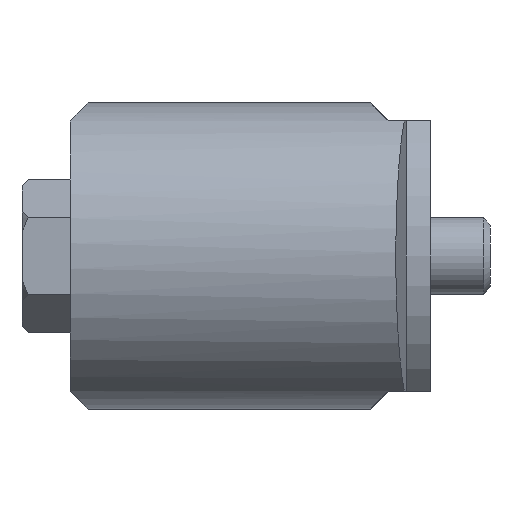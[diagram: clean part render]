
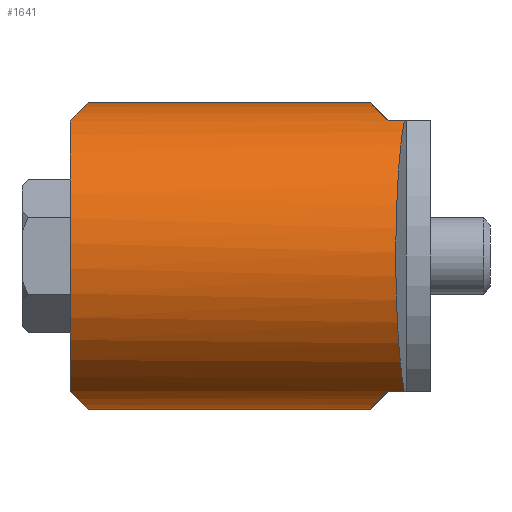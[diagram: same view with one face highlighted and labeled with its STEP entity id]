
A CAD part, left-side view. The second image highlights one B-rep face of the part: STEP entity #1641.
In plain terms, the highlighted cylindrical face has radius 12.75 mm (diameter 25.5 mm), a partial arc.
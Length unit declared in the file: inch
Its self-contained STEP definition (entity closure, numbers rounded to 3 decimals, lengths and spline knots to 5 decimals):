
#60=ELLIPSE('',#1760,0.70989,0.50197);
#61=ELLIPSE('',#1763,0.70989,0.50197);
#62=ELLIPSE('',#1766,0.70989,0.50197);
#63=ELLIPSE('',#1768,0.70989,0.50197);
#64=ELLIPSE('',#1772,0.50473,0.50197);
#146=FACE_OUTER_BOUND('',#241,.T.);
#241=EDGE_LOOP('',(#1092,#1093,#1094,#1095,#1096,#1097,#1098,#1099,#1100,
#1101));
#348=LINE('',#2508,#440);
#361=LINE('',#2538,#453);
#370=LINE('',#2563,#462);
#371=LINE('',#2565,#463);
#440=VECTOR('',#1995,0.3937);
#453=VECTOR('',#2014,0.3937);
#462=VECTOR('',#2041,0.3937);
#463=VECTOR('',#2044,0.3937);
#536=CIRCLE('',#1774,0.50197);
#647=VERTEX_POINT('',#2498);
#648=VERTEX_POINT('',#2499);
#651=VERTEX_POINT('',#2507);
#656=VERTEX_POINT('',#2519);
#657=VERTEX_POINT('',#2520);
#664=VERTEX_POINT('',#2535);
#665=VERTEX_POINT('',#2537);
#667=VERTEX_POINT('',#2543);
#669=VERTEX_POINT('',#2549);
#670=VERTEX_POINT('',#2550);
#813=EDGE_CURVE('',#647,#648,#60,.T.);
#817=EDGE_CURVE('',#648,#651,#348,.T.);
#823=EDGE_CURVE('',#656,#657,#61,.T.);
#831=EDGE_CURVE('',#665,#664,#361,.T.);
#834=EDGE_CURVE('',#664,#667,#62,.T.);
#837=EDGE_CURVE('',#669,#670,#63,.T.);
#843=EDGE_CURVE('',#651,#665,#64,.T.);
#844=EDGE_CURVE('',#667,#669,#370,.T.);
#845=EDGE_CURVE('',#656,#670,#536,.T.);
#846=EDGE_CURVE('',#647,#657,#371,.T.);
#1092=ORIENTED_EDGE('',*,*,#813,.T.);
#1093=ORIENTED_EDGE('',*,*,#817,.T.);
#1094=ORIENTED_EDGE('',*,*,#843,.T.);
#1095=ORIENTED_EDGE('',*,*,#831,.T.);
#1096=ORIENTED_EDGE('',*,*,#834,.T.);
#1097=ORIENTED_EDGE('',*,*,#844,.T.);
#1098=ORIENTED_EDGE('',*,*,#837,.T.);
#1099=ORIENTED_EDGE('',*,*,#845,.F.);
#1100=ORIENTED_EDGE('',*,*,#823,.T.);
#1101=ORIENTED_EDGE('',*,*,#846,.F.);
#1504=CYLINDRICAL_SURFACE('',#1773,0.50197);
#1641=ADVANCED_FACE('',(#146),#1504,.T.);
#1760=AXIS2_PLACEMENT_3D('',#2500,#1988,#1989);
#1763=AXIS2_PLACEMENT_3D('',#2521,#2003,#2004);
#1766=AXIS2_PLACEMENT_3D('',#2544,#2019,#2020);
#1768=AXIS2_PLACEMENT_3D('',#2551,#2025,#2026);
#1772=AXIS2_PLACEMENT_3D('',#2561,#2037,#2038);
#1773=AXIS2_PLACEMENT_3D('',#2562,#2039,#2040);
#1774=AXIS2_PLACEMENT_3D('',#2564,#2042,#2043);
#1988=DIRECTION('center_axis',(0.,0.707,0.707));
#1989=DIRECTION('ref_axis',(0.,-0.707,0.707));
#1995=DIRECTION('',(0.,-1.,0.));
#2003=DIRECTION('center_axis',(0.,-0.707,0.707));
#2004=DIRECTION('ref_axis',(0.,0.707,0.707));
#2014=DIRECTION('',(0.,1.,0.));
#2019=DIRECTION('center_axis',(0.,0.707,-0.707));
#2020=DIRECTION('ref_axis',(0.,0.707,0.707));
#2025=DIRECTION('center_axis',(0.,-0.707,-0.707));
#2026=DIRECTION('ref_axis',(0.,-0.707,0.707));
#2037=DIRECTION('center_axis',(0.105,0.995,0.));
#2038=DIRECTION('ref_axis',(-0.995,0.105,0.));
#2039=DIRECTION('center_axis',(0.,-1.,0.));
#2040=DIRECTION('ref_axis',(0.,0.,1.));
#2041=DIRECTION('',(0.,1.,0.));
#2042=DIRECTION('center_axis',(0.,1.,0.));
#2043=DIRECTION('ref_axis',(0.,0.,1.));
#2044=DIRECTION('',(0.,1.,0.));
#2498=CARTESIAN_POINT('',(-0.65997,-0.4875,-0.50197));
#2499=CARTESIAN_POINT('',(-0.89619,-0.54655,-0.44291));
#2500=CARTESIAN_POINT('Origin',(-0.65997,-0.98947,0.));
#2507=CARTESIAN_POINT('',(-0.89619,-0.60002,-0.44291));
#2508=CARTESIAN_POINT('',(-0.89619,0.49675,-0.44291));
#2519=CARTESIAN_POINT('',(-0.89619,0.49675,-0.44291));
#2520=CARTESIAN_POINT('',(-0.65997,0.4377,-0.50197));
#2521=CARTESIAN_POINT('Origin',(-0.65997,0.93967,0.));
#2535=CARTESIAN_POINT('',(-0.89619,-0.54655,0.44291));
#2537=CARTESIAN_POINT('',(-0.89619,-0.60002,0.44291));
#2538=CARTESIAN_POINT('',(-0.89619,0.49675,0.44291));
#2543=CARTESIAN_POINT('',(-0.65997,-0.4875,0.50197));
#2544=CARTESIAN_POINT('Origin',(-0.65997,-0.98947,0.));
#2549=CARTESIAN_POINT('',(-0.65997,0.4377,0.50197));
#2550=CARTESIAN_POINT('',(-0.89619,0.49675,0.44291));
#2551=CARTESIAN_POINT('Origin',(-0.65997,0.93967,0.));
#2561=CARTESIAN_POINT('Origin',(-0.65997,-0.62485,0.));
#2562=CARTESIAN_POINT('Origin',(-0.65997,0.49675,0.));
#2563=CARTESIAN_POINT('',(-0.65997,0.49675,0.50197));
#2564=CARTESIAN_POINT('Origin',(-0.65997,0.49675,0.));
#2565=CARTESIAN_POINT('',(-0.65997,0.49675,-0.50197));
